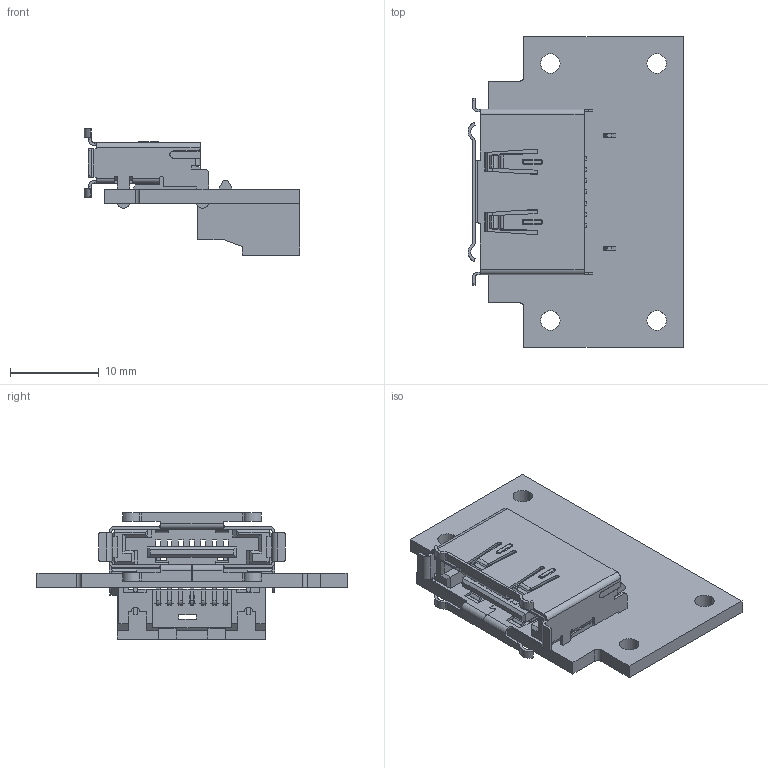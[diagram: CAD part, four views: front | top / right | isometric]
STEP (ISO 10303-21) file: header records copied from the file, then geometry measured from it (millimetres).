
FILE_DESCRIPTION(/* description */ ('(C) Elphel, Inc. 2012. Licensed under CERN OHL v.1.1 or later, see http://ohwr.org/cernohl'),/* implementation_level */ '2;1');
FILE_NAME(/* name */ '0353-00-31',/* time_stamp */ '2012-12-06T20:55:29-07:00',/* author */ (''),/* organization */ ('Elphel, Inc'),/* preprocessor_version */ 'ST-DEVELOPER v12',/* originating_system */ 'VariCAD 2012-1.04; kernel version (20100102)',/* authorisation */ '');
FILE_SCHEMA (('CONFIG_CONTROL_DESIGN'));
Length unit declared in the file: millimetre
Products named in the file (1): Part
Bounding box: 24.38 x 35 x 14.25 mm (x, y, z)
Volume: 2208.3 mm3; surface area: 4615 mm2
Topology: 1 solids, 1 shells, 1332 faces, 3944 edges, 2536 vertices
Faces by surface type: plane 1089, cylinder 205, bspline 16, torus 16, cone 6
Entity records: 44366 total; most frequent: CARTESIAN_POINT 8358, ORIENTED_EDGE 7888, DIRECTION 6948, EDGE_CURVE 3944, LINE 3496, VECTOR 3496, VERTEX_POINT 2536, AXIS2_PLACEMENT_3D 1726
